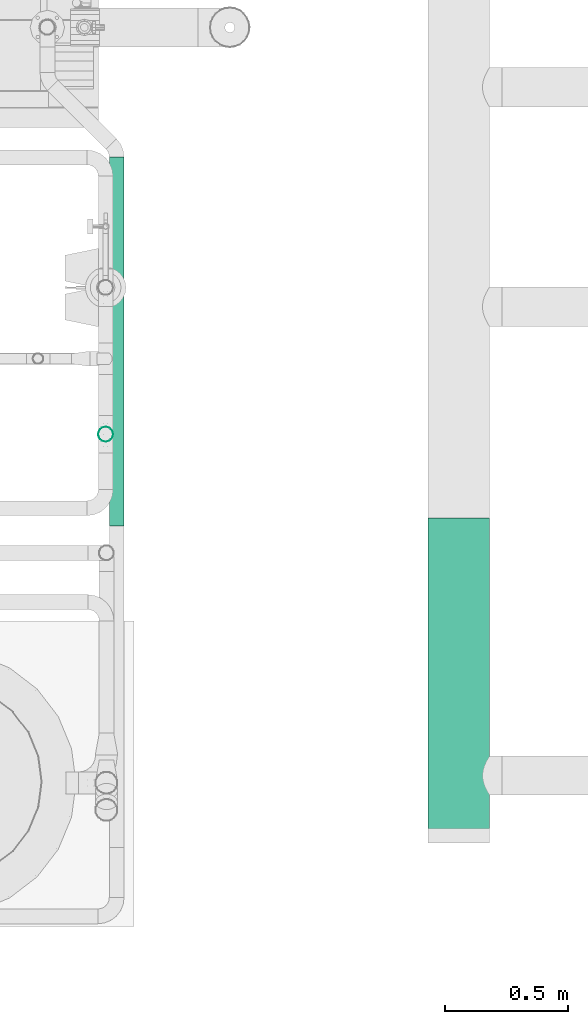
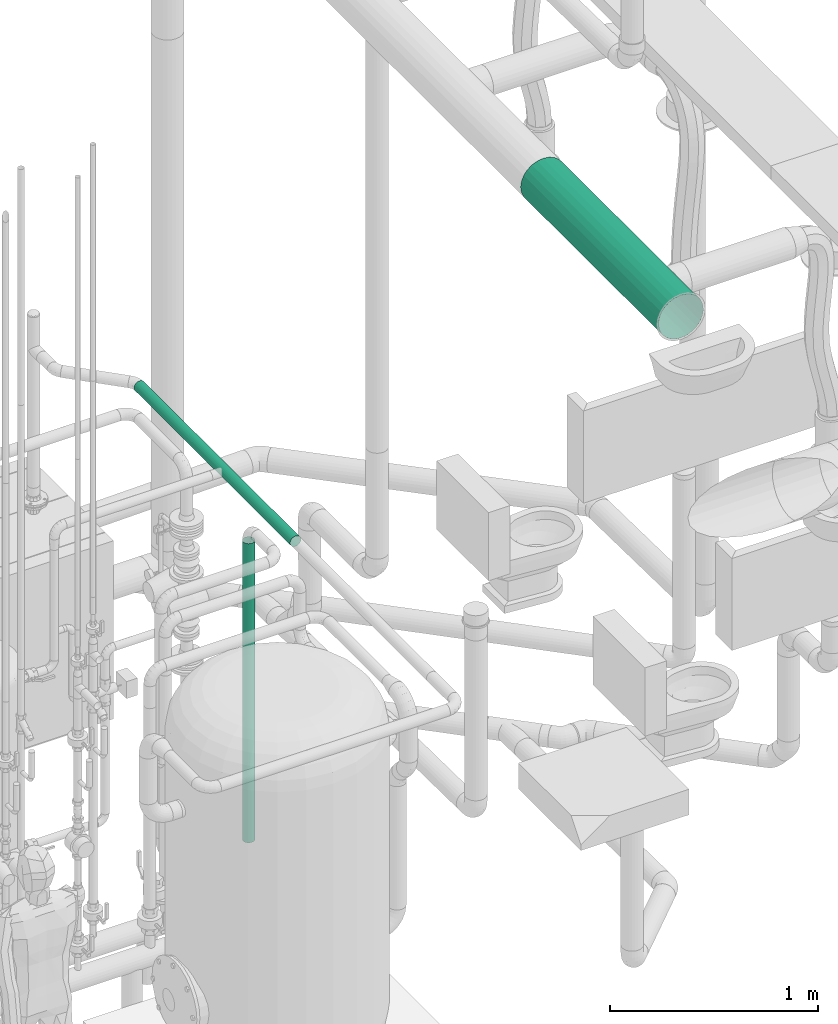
# One storey, part 216 of 374: 3 flow segments.
"""IFC2X3 building model written with IfcOpenShell, lengths in metres."""

from ifc_helpers import new_model, si_unit, direction, origin, place, context, subcontext, project, spatial, open_shell, surface_model, source, transform, mapped, element, save


model = new_model("IFC2X3")

# Units and contexts
model_context = context("Model", 3, precision=1e-05, world=origin(), true_north=direction((-0.4480736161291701, 0.8939966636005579)))
body_context = subcontext(model_context, "Body", "Model", "MODEL_VIEW")
ifc_project = project(units=[si_unit("LENGTHUNIT", "METRE"), si_unit("AREAUNIT", "SQUARE_METRE"), si_unit("VOLUMEUNIT", "CUBIC_METRE"), si_unit("PLANEANGLEUNIT", "RADIAN"), si_unit("THERMODYNAMICTEMPERATUREUNIT", "KELVIN"), si_unit("MASSUNIT", "GRAM", prefix="KILO"), si_unit("TIMEUNIT", "SECOND")], contexts=[model_context])

# Site, building, storey
site_placement = place(None, origin())
site = spatial("IfcSite", under=ifc_project, at=site_placement, Name="Site 1", CompositionType="ELEMENT")
building_placement = place(site_placement, origin())
building = spatial("IfcBuilding", under=site, at=building_placement, Name="Undefined", CompositionType="ELEMENT")
storey_placement = place(building_placement, origin())
storey = spatial("IfcBuildingStorey", under=building, at=storey_placement, Name="Rez de chauss\x8ee", CompositionType="ELEMENT", Elevation=0.0)

# Flow segments
shared_shape_1 = source(origin(), body_context, "Body", "SurfaceModel", [
    surface_model("IfcFaceBasedSurfaceModel", [(0.0, 0.03263154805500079, 0.0), (0.0, 0.0, 0.0), (1.3226012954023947, 7.105427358e-15, 4.4408921e-16), (1.3226012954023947, 0.03263154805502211, 4.4408921e-16), (0.0, -0.031519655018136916, -0.008445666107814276), (1.3226012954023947, -0.03151965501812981, -0.008445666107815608), (0.0, -0.05977940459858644, -0.024761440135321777), (1.3226012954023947, -0.05977940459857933, -0.024761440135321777), (0.0, -0.08285339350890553, -0.047835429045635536), (1.3226012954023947, -0.08285339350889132, -0.04783542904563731), (0.0, -0.09916916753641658, -0.07609517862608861), (1.3226012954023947, -0.09916916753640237, -0.07609517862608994), (0.0, -0.1076148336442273, -0.10761483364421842), (1.3226012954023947, -0.10761483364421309, -0.1076148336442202), (0.0, -0.1076148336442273, -0.14024638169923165), (1.3226012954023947, -0.10761483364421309, -0.14024638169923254), (0.0, -0.09916916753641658, -0.17176603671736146), (1.3226012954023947, -0.09916916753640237, -0.17176603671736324), (0.0, -0.08285339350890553, -0.2000257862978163), (1.3226012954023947, -0.08285339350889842, -0.20002578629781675), (0.0, -0.059779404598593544, -0.22309977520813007), (1.3226012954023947, -0.05977940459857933, -0.22309977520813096), (0.0, -0.03151965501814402, -0.23941554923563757), (1.3226012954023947, -0.031519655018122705, -0.23941554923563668), (0.0, -1.4210854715e-14, -0.24786121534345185), (1.3226012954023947, 7.105427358e-15, -0.2478612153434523), (0.0, 0.03263154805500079, -0.24786121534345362), (1.3226012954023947, 0.032631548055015, -0.24786121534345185), (0.0, 0.0641512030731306, -0.23941554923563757), (1.3226012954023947, 0.06415120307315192, -0.23941554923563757), (0.0, 0.09241095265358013, -0.22309977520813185), (1.3226012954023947, 0.09241095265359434, -0.2230997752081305), (0.0, 0.11548494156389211, -0.2000257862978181), (1.3226012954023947, 0.11548494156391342, -0.20002578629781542), (0.0, 0.13180071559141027, -0.171766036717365), (1.3226012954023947, 0.13180071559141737, -0.17176603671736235), (0.0, 0.140246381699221, -0.1402463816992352), (1.3226012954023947, 0.1402463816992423, -0.14024638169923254), (0.0, 0.140246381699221, -0.10761483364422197), (1.3226012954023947, 0.1402463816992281, -0.10761483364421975), (0.0, 0.13180071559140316, -0.07609517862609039), (1.3226012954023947, 0.13180071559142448, -0.0760951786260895), (0.0, 0.11548494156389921, -0.04783542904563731), (1.3226012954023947, 0.11548494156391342, -0.047835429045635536), (0.0, 0.09241095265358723, -0.024761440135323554), (1.3226012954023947, 0.09241095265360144, -0.02476144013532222), (0.0, 0.06415120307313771, -0.008445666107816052), (1.3226012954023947, 0.06415120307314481, -0.00844566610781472)], [open_shell([[[0, 1, 2, 3]], [[1, 4, 5, 2]], [[4, 6, 7, 5]], [[6, 8, 9, 7]], [[8, 10, 11, 9]], [[10, 12, 13, 11]], [[12, 14, 15, 13]], [[14, 16, 17, 15]], [[16, 18, 19, 17]], [[18, 20, 21, 19]], [[20, 22, 23, 21]], [[22, 24, 25, 23]], [[24, 26, 27, 25]], [[26, 28, 29, 27]], [[28, 30, 31, 29]], [[30, 32, 33, 31]], [[32, 34, 35, 33]], [[34, 36, 37, 35]], [[36, 38, 39, 37]], [[38, 40, 41, 39]], [[40, 42, 43, 41]], [[42, 44, 45, 43]], [[44, 46, 47, 45]], [[46, 0, 3, 47]]])]),
])
flow_segment_1_placement = place(storey_placement, origin())
element("IfcFlowSegment", 1, at=flow_segment_1_placement, inside=storey, Name="Tube", ObjectType="Tube", context=body_context, shape_type="MappedRepresentation", body=[
    mapped(shared_shape_1, transform((56.403698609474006, 11.061144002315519, 3.920740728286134), x_axis=(0.0, -1.0, 0.0), y_axis=(0.9914448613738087, 0.0, 0.13052619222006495), z_axis=(-0.13052619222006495, 0.0, 0.9914448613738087))),
])
shared_shape_2 = source(origin(), body_context, "Body", "SurfaceModel", [
    surface_model("IfcFaceBasedSurfaceModel", [(0.0, 0.007870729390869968, 7.105427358e-15), (0.0, 0.0, 0.0), (1.5, 7.105427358e-15, 8.8817842e-16), (1.5, 0.007870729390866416, 8.8817842e-16), (0.0, -0.00760254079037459, -0.0020370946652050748), (1.5, -0.007602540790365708, -0.0020370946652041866), (0.0, -0.01441879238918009, -0.00597245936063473), (1.5, -0.014418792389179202, -0.005972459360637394), (0.0, -0.019984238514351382, -0.011537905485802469), (1.5, -0.019984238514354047, -0.011537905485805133), (0.0, -0.023919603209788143, -0.018354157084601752), (1.5, -0.023919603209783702, -0.018354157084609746), (0.0, -0.025956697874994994, -0.025956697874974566), (1.5, -0.025956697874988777, -0.02595669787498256), (0.0, -0.025956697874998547, -0.03382742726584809), (1.5, -0.025956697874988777, -0.03382742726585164), (0.0, -0.02391960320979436, -0.041429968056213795), (1.5, -0.023919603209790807, -0.04142996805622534), (0.0, -0.019984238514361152, -0.04824621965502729), (1.5, -0.01998423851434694, -0.048246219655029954), (0.0, -0.01441879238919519, -0.05381166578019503), (1.5, -0.014418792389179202, -0.05381166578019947), (0.0, -0.007602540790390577, -0.05774703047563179), (1.5, -0.007602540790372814, -0.05774703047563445), (0.0, -1.7763568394e-14, -0.05978412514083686), (1.5, -7.105427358e-15, -0.05978412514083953), (0.0, 0.007870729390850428, -0.05978412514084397), (1.5, 0.007870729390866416, -0.059784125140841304), (0.0, 0.015473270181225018, -0.057747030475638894), (1.5, 0.015473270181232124, -0.05774703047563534), (0.0, 0.022289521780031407, -0.05381166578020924), (1.5, 0.022289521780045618, -0.053811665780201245), (0.0, 0.027854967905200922, -0.048246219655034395), (1.5, 0.02785496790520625, -0.048246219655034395), (0.0, 0.031790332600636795, -0.04142996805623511), (1.5, 0.03179033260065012, -0.04142996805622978), (0.0, 0.033827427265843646, -0.0338274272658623), (1.5, 0.03382742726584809, -0.03382742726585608), (0.0, 0.0338274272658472, -0.025956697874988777), (1.5, 0.03382742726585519, -0.02595669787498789), (0.0, 0.0317903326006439, -0.01835415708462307), (1.5, 0.03179033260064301, -0.018354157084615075), (0.0, 0.02785496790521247, -0.01153790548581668), (1.5, 0.027854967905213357, -0.011537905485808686), (0.0, 0.022289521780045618, -0.005972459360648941), (1.5, 0.022289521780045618, -0.005972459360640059), (0.0, 0.015473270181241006, -0.0020370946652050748), (1.5, 0.015473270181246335, -0.002037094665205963)], [open_shell([[[0, 1, 2, 3]], [[1, 4, 5, 2]], [[4, 6, 7, 5]], [[6, 8, 9, 7]], [[8, 10, 11, 9]], [[10, 12, 13, 11]], [[12, 14, 15, 13]], [[14, 16, 17, 15]], [[16, 18, 19, 17]], [[18, 20, 21, 19]], [[20, 22, 23, 21]], [[22, 24, 25, 23]], [[24, 26, 27, 25]], [[26, 28, 29, 27]], [[28, 30, 31, 29]], [[30, 32, 33, 31]], [[32, 34, 35, 33]], [[34, 36, 37, 35]], [[36, 38, 39, 37]], [[38, 40, 41, 39]], [[40, 42, 43, 41]], [[42, 44, 45, 43]], [[44, 46, 47, 45]], [[46, 0, 3, 47]]])]),
])
flow_segment_2_placement = place(storey_placement, origin())
element("IfcFlowSegment", 2, at=flow_segment_2_placement, inside=storey, Name="Tube acier d'après DIN 2448", ObjectType="Tube acier d'après DIN 2448", context=body_context, shape_type="MappedRepresentation", body=[
    mapped(shared_shape_2, transform((55.051892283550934, 12.528375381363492, 2.158877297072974), x_axis=(0.0, -1.0, 0.0), y_axis=(-0.9914448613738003, 0.0, -0.13052619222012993), z_axis=(0.130526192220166, 0.0, -0.9914448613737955))),
])
shared_shape_3 = source(origin(), body_context, "Body", "SurfaceModel", [
    surface_model("IfcFaceBasedSurfaceModel", [(0.0, 0.007870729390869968, 7.105427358e-15), (0.0, 0.0, 0.0), (1.753165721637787, 0.0, 7.105427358e-15), (1.753165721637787, 0.007870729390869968, 0.0), (0.0, -0.00760254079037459, -0.0020370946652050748), (1.753165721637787, -0.007602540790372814, -0.0020370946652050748), (0.0, -0.01441879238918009, -0.00597245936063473), (1.753165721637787, -0.01441879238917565, -0.005972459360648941), (0.0, -0.019984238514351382, -0.011537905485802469), (1.753165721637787, -0.019984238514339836, -0.011537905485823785), (0.0, -0.023919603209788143, -0.018354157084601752), (1.753165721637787, -0.02391960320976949, -0.01835415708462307), (0.0, -0.025956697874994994, -0.025956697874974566), (1.753165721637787, -0.02595669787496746, -0.025956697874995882), (0.0, -0.025956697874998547, -0.03382742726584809), (1.753165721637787, -0.025956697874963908, -0.0338274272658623), (0.0, -0.02391960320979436, -0.041429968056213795), (1.753165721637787, -0.02391960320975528, -0.04142996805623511), (0.0, -0.019984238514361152, -0.04824621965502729), (1.753165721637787, -0.01998423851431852, -0.0482462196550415), (0.0, -0.01441879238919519, -0.05381166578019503), (1.753165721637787, -0.014418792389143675, -0.053811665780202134), (0.0, -0.007602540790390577, -0.05774703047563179), (1.753165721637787, -0.007602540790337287, -0.057747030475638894), (0.0, -1.7763568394e-14, -0.05978412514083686), (1.753165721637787, 3.5527136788e-14, -0.05978412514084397), (0.0, 0.007870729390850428, -0.05978412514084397), (1.753165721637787, 0.007870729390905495, -0.05978412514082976), (0.0, 0.015473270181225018, -0.057747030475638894), (1.753165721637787, 0.015473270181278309, -0.05774703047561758), (0.0, 0.022289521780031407, -0.05381166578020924), (1.753165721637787, 0.022289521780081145, -0.05381166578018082), (0.0, 0.027854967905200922, -0.048246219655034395), (1.753165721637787, 0.02785496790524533, -0.04824621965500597), (0.0, 0.031790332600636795, -0.04142996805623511), (1.753165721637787, 0.03179033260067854, -0.041429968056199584), (0.0, 0.033827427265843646, -0.0338274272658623), (1.753165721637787, 0.03382742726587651, -0.033827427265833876), (0.0, 0.0338274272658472, -0.025956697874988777), (1.753165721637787, 0.033827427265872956, -0.025956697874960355), (0.0, 0.0317903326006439, -0.01835415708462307), (1.753165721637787, 0.03179033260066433, -0.018354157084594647), (0.0, 0.02785496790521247, -0.01153790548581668), (1.753165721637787, 0.027854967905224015, -0.011537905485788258), (0.0, 0.022289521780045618, -0.005972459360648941), (1.753165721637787, 0.022289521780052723, -0.005972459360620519), (0.0, 0.015473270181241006, -0.0020370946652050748), (1.753165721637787, 0.015473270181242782, -0.0020370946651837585)], [open_shell([[[0, 1, 2, 3]], [[1, 4, 5, 2]], [[4, 6, 7, 5]], [[6, 8, 9, 7]], [[8, 10, 11, 9]], [[10, 12, 13, 11]], [[12, 14, 15, 13]], [[14, 16, 17, 15]], [[16, 18, 19, 17]], [[18, 20, 21, 19]], [[20, 22, 23, 21]], [[22, 24, 25, 23]], [[24, 26, 27, 25]], [[26, 28, 29, 27]], [[28, 30, 31, 29]], [[30, 32, 33, 31]], [[32, 34, 35, 33]], [[34, 36, 37, 35]], [[36, 38, 39, 37]], [[38, 40, 41, 39]], [[40, 42, 43, 41]], [[42, 44, 45, 43]], [[44, 46, 47, 45]], [[46, 0, 3, 47]]])]),
])
flow_segment_3_placement = place(storey_placement, origin())
element("IfcFlowSegment", 3, at=flow_segment_3_placement, inside=storey, Name="Tube acier d'après DIN 2448", ObjectType="Tube acier d'après DIN 2448", context=body_context, shape_type="MappedRepresentation", body=[
    mapped(shared_shape_3, transform((55.028451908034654, 11.393196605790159, 1.983641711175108), x_axis=(0.0, 0.0, -1.0), y_axis=(0.13052619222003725, 0.9914448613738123, 0.0), z_axis=(0.9914448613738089, -0.13052619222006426, 0.0))),
])

save(model, "model.ifc")
